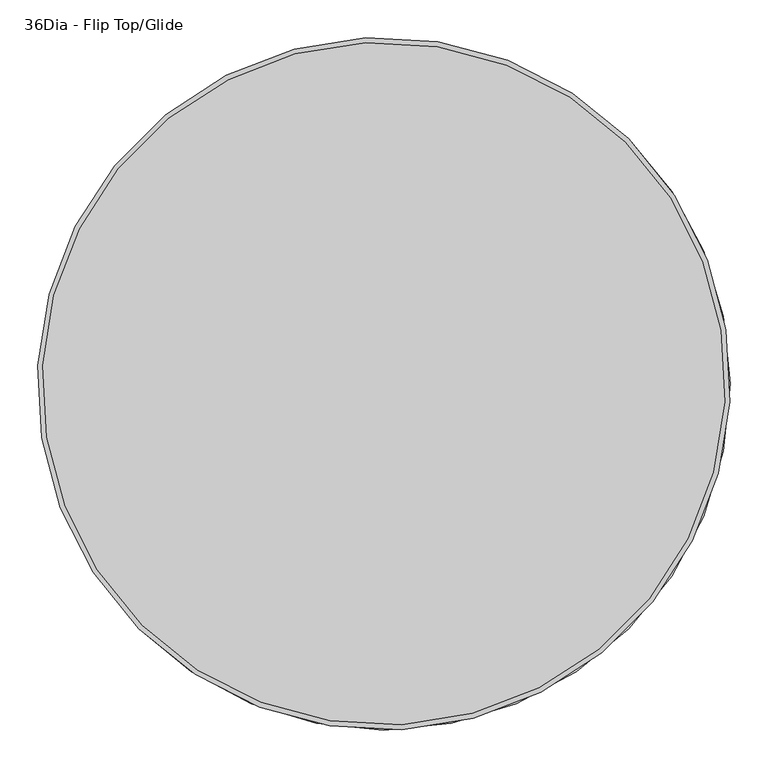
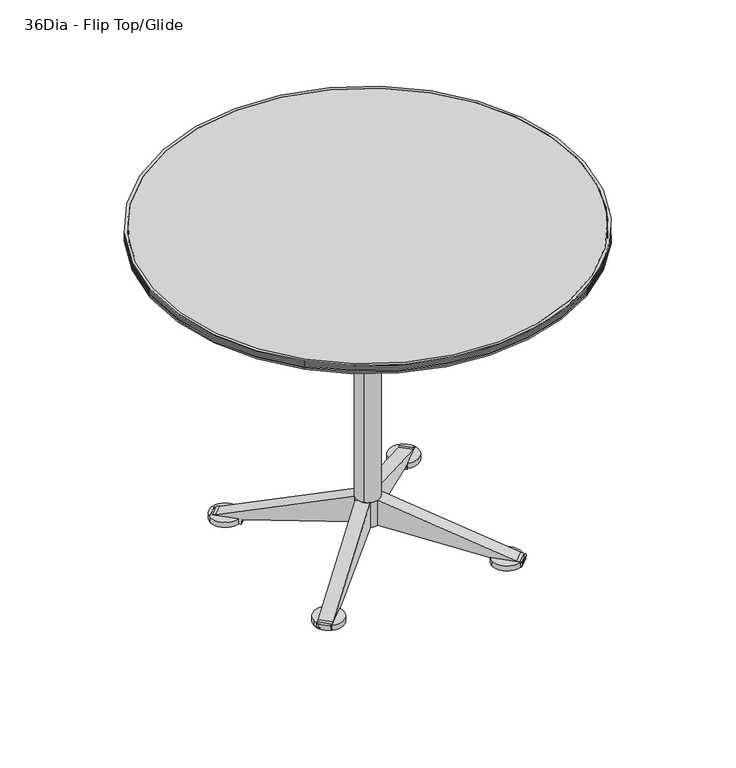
"""IFC4 building model written with IfcOpenShell, lengths in millimetres: furniture geometry, Coalesse_AM_Table_Conference_Ballet_Table_Round : 36Dia - Flip Top/Glide."""

from ifc_helpers import new_model, si_unit, point, frame, frame_2d, origin, origin_with_axes, origin_2d, place, context, project, spatial, polyline, circle_curve, trimmed, segment, composite_curve, outline, extrude, source, transform, mapped, element, save
from ifc_brep_helpers import plane_surface, cylinder_surface, revolved_surface, advanced_brep


def furniture_36dia_flip_top_glide_c7ab700b(model_context):
    return source(origin(), model_context, "Body", "SolidModel", [
        extrude(outline(composite_curve([segment(trimmed(circle_curve(frame_2d((-194.715793, 197.3207687)), 31.75), [point((-226.465793, 197.3207687))], [point((-162.965793, 197.3207687))], False, "CARTESIAN"), True, "CONTINUOUS"), segment(trimmed(circle_curve(frame_2d((-194.715793, 197.3207687)), 31.75), [point((-162.965793, 197.3207687))], [point((-226.465793, 197.3207687))], False, "CARTESIAN"), True, "CONTINUOUS")], self_intersect=False)), frame((0.0, 0.0, 4.2904479), z_axis=(0.0, 0.0, 1.0), x_axis=(1.0, 0.0, 0.0)), (0.0, 0.0, 1.0), 11.3833531),
        extrude(outline(composite_curve([segment(trimmed(circle_curve(frame_2d((191.7194605, 196.5270187)), 31.75), [point((159.9694605, 196.5270187))], [point((223.4694605, 196.5270187))], False, "CARTESIAN"), True, "CONTINUOUS"), segment(trimmed(circle_curve(frame_2d((191.7194605, 196.5270187)), 31.75), [point((223.4694605, 196.5270187))], [point((159.9694605, 196.5270187))], False, "CARTESIAN"), True, "CONTINUOUS")], self_intersect=False)), frame((0.0, 0.0, 4.2904479), z_axis=(0.0, 0.0, 1.0), x_axis=(1.0, 0.0, 0.0)), (0.0, 0.0, 1.0), 11.3833531),
        extrude(outline(composite_curve([segment(trimmed(circle_curve(frame_2d((-194.715793, -191.2787692)), 31.75), [point((-226.465793, -191.2787692))], [point((-162.965793, -191.2787692))], False, "CARTESIAN"), True, "CONTINUOUS"), segment(trimmed(circle_curve(frame_2d((-194.715793, -191.2787692)), 31.75), [point((-162.965793, -191.2787692))], [point((-226.465793, -191.2787692))], False, "CARTESIAN"), True, "CONTINUOUS")], self_intersect=False)), frame((0.0, 0.0, 4.2904479), z_axis=(0.0, 0.0, 1.0), x_axis=(1.0, 0.0, 0.0)), (0.0, 0.0, 1.0), 11.3833531),
        extrude(outline(composite_curve([segment(trimmed(circle_curve(frame_2d((191.7194605, -190.4850192)), 31.75), [point((159.9694605, -190.4850192))], [point((223.4694605, -190.4850192))], False, "CARTESIAN"), True, "CONTINUOUS"), segment(trimmed(circle_curve(frame_2d((191.7194605, -190.4850192)), 31.75), [point((223.4694605, -190.4850192))], [point((159.9694605, -190.4850192))], False, "CARTESIAN"), True, "CONTINUOUS")], self_intersect=False)), frame((0.0, 0.0, 4.2904479), z_axis=(0.0, 0.0, 1.0), x_axis=(1.0, 0.0, 0.0)), (0.0, 0.0, 1.0), 11.3833531),
        extrude(outline(composite_curve([segment(polyline([(-57.749273, 0.0), (0.0, 0.0), (-90.9931074, -269.8641919), (-92.3030079, -279.1846177)]), True, "CONTINUOUS"), segment(trimmed(circle_curve(frame_2d((-93.9206951, -278.9572666)), 1.6335852), [point((-92.3030079, -279.1846177))], [point((-93.8206014, -280.5877823))], False, "CARTESIAN"), True, "CONTINUOUS"), segment(trimmed(circle_curve(frame_2d((-95.8523928, -247.4901147)), 33.1599725), [point((-93.8206014, -280.5877823))], [point((-101.682402, -280.1335639))], False, "CARTESIAN"), True, "CONTINUOUS"), segment(trimmed(circle_curve(frame_2d((-101.2796868, -277.8786768)), 2.2905666), [point((-101.682402, -280.1335639))], [point((-103.5674671, -277.7657306))], False, "CARTESIAN"), True, "CONTINUOUS"), segment(polyline([(-103.5674671, -277.7657306), (-103.5674671, -222.4322812)]), True, "CONTINUOUS"), segment(trimmed(circle_curve(frame_2d((-100.6154331, -221.9840334)), 2.9858719), [point((-103.5674671, -222.4322812))], [point((-100.2998684, -219.0148838))], False, "CARTESIAN"), True, "CONTINUOUS"), segment(trimmed(circle_curve(frame_2d((-98.3053249, -200.2482144)), 18.872363), [point((-100.2998684, -219.0148838))], [point((-94.5016021, -218.7332835))], True, "CARTESIAN"), True, "CONTINUOUS"), segment(trimmed(circle_curve(frame_2d((-95.1495986, -215.5841949)), 3.2150673), [point((-94.5016021, -218.7332835))], [point((-91.9741141, -216.0871422))], True, "CARTESIAN"), True, "CONTINUOUS"), segment(polyline([(-91.9741141, -216.0871422), (-57.749273, 0.0)]), True, "CONTINUOUS")], self_intersect=False)), frame((-23.5273141, 7.7834997, 107.857915), z_axis=(0.7071067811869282, 0.707106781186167, 0.0), x_axis=(0.0, 0.0, 1.0)), (0.0, 0.0, 1.0), 29.2174476),
        extrude(outline(composite_curve([segment(polyline([(-57.749273, 44.2801775), (-91.9741141, 260.3673198)]), True, "CONTINUOUS"), segment(trimmed(circle_curve(frame_2d((-95.1495986, 259.8643724)), 3.2150673), [point((-91.9741141, 260.3673198))], [point((-94.5016021, 263.013461))], True, "CARTESIAN"), True, "CONTINUOUS"), segment(trimmed(circle_curve(frame_2d((-98.3053249, 244.5283919)), 18.872363), [point((-94.5016021, 263.013461))], [point((-100.2998684, 263.2950613))], True, "CARTESIAN"), True, "CONTINUOUS"), segment(trimmed(circle_curve(frame_2d((-100.6154331, 266.2642109)), 2.9858719), [point((-100.2998684, 263.2950613))], [point((-103.5674671, 266.7124587))], False, "CARTESIAN"), True, "CONTINUOUS"), segment(polyline([(-103.5674671, 266.7124587), (-103.5674671, 322.0459081)]), True, "CONTINUOUS"), segment(trimmed(circle_curve(frame_2d((-101.2796868, 322.1588543)), 2.2905666), [point((-103.5674671, 322.0459081))], [point((-101.682402, 324.4137415))], False, "CARTESIAN"), True, "CONTINUOUS"), segment(trimmed(circle_curve(frame_2d((-95.8523928, 291.7702923)), 33.1599725), [point((-101.682402, 324.4137415))], [point((-93.8206014, 324.8679598))], False, "CARTESIAN"), True, "CONTINUOUS"), segment(trimmed(circle_curve(frame_2d((-93.9206951, 323.2374442)), 1.6335852), [point((-93.8206014, 324.8679598))], [point((-92.3030079, 323.4647953))], False, "CARTESIAN"), True, "CONTINUOUS"), segment(polyline([(-92.3030079, 323.4647953), (-90.9931074, 314.1443694), (0.0, 44.2801775), (-57.749273, 44.2801775)]), True, "CONTINUOUS")], self_intersect=False)), frame((-23.5273141, 7.7834997, 107.857915), z_axis=(0.7071067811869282, 0.707106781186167, 0.0), x_axis=(0.0, 0.0, 1.0)), (0.0, 0.0, 1.0), 29.2174476),
        extrude(outline(composite_curve([segment(polyline([(-57.749273, 0.0), (0.0, 0.0), (-90.9931074, -269.8641919), (-92.3030079, -279.1846177)]), True, "CONTINUOUS"), segment(trimmed(circle_curve(frame_2d((-93.9206951, -278.9572666)), 1.6335852), [point((-92.3030079, -279.1846177))], [point((-93.8206014, -280.5877823))], False, "CARTESIAN"), True, "CONTINUOUS"), segment(trimmed(circle_curve(frame_2d((-95.8523928, -247.4901147)), 33.1599725), [point((-93.8206014, -280.5877823))], [point((-101.682402, -280.1335639))], False, "CARTESIAN"), True, "CONTINUOUS"), segment(trimmed(circle_curve(frame_2d((-101.2796868, -277.8786768)), 2.2905666), [point((-101.682402, -280.1335639))], [point((-103.5674671, -277.7657306))], False, "CARTESIAN"), True, "CONTINUOUS"), segment(polyline([(-103.5674671, -277.7657306), (-103.5674671, -222.4322812)]), True, "CONTINUOUS"), segment(trimmed(circle_curve(frame_2d((-100.6154331, -221.9840334)), 2.9858719), [point((-103.5674671, -222.4322812))], [point((-100.2998684, -219.0148838))], False, "CARTESIAN"), True, "CONTINUOUS"), segment(trimmed(circle_curve(frame_2d((-98.3053249, -200.2482144)), 18.872363), [point((-100.2998684, -219.0148838))], [point((-94.5016021, -218.7332835))], True, "CARTESIAN"), True, "CONTINUOUS"), segment(trimmed(circle_curve(frame_2d((-95.1495986, -215.5841949)), 3.2150673), [point((-94.5016021, -218.7332835))], [point((-91.9741141, -216.0871422))], True, "CARTESIAN"), True, "CONTINUOUS"), segment(polyline([(-91.9741141, -216.0871422), (-57.749273, 0.0)]), True, "CONTINUOUS")], self_intersect=False)), frame((-7.7834997, -23.5273141, 107.857915), z_axis=(-0.7071067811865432, 0.7071067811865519, 0.0), x_axis=(0.0, 0.0, 1.0)), (0.0, 0.0, 1.0), 29.2174476),
        extrude(outline(composite_curve([segment(polyline([(-57.749273, 44.2801775), (-91.9741141, 260.3673198)]), True, "CONTINUOUS"), segment(trimmed(circle_curve(frame_2d((-95.1495986, 259.8643724)), 3.2150673), [point((-91.9741141, 260.3673198))], [point((-94.5016021, 263.013461))], True, "CARTESIAN"), True, "CONTINUOUS"), segment(trimmed(circle_curve(frame_2d((-98.3053249, 244.5283919)), 18.872363), [point((-94.5016021, 263.013461))], [point((-100.2998684, 263.2950613))], True, "CARTESIAN"), True, "CONTINUOUS"), segment(trimmed(circle_curve(frame_2d((-100.6154331, 266.2642109)), 2.9858719), [point((-100.2998684, 263.2950613))], [point((-103.5674671, 266.7124587))], False, "CARTESIAN"), True, "CONTINUOUS"), segment(polyline([(-103.5674671, 266.7124587), (-103.5674671, 322.0459081)]), True, "CONTINUOUS"), segment(trimmed(circle_curve(frame_2d((-101.2796868, 322.1588543)), 2.2905666), [point((-103.5674671, 322.0459081))], [point((-101.682402, 324.4137415))], False, "CARTESIAN"), True, "CONTINUOUS"), segment(trimmed(circle_curve(frame_2d((-95.8523928, 291.7702923)), 33.1599725), [point((-101.682402, 324.4137415))], [point((-93.8206014, 324.8679598))], False, "CARTESIAN"), True, "CONTINUOUS"), segment(trimmed(circle_curve(frame_2d((-93.9206951, 323.2374442)), 1.6335852), [point((-93.8206014, 324.8679598))], [point((-92.3030079, 323.4647953))], False, "CARTESIAN"), True, "CONTINUOUS"), segment(polyline([(-92.3030079, 323.4647953), (-90.9931074, 314.1443694), (0.0, 44.2801775), (-57.749273, 44.2801775)]), True, "CONTINUOUS")], self_intersect=False)), frame((-7.7834997, -23.5273141, 107.857915), z_axis=(-0.7071067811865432, 0.7071067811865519, 0.0), x_axis=(0.0, 0.0, 1.0)), (0.0, 0.0, 1.0), 29.2174476),
        extrude(outline(composite_curve([segment(polyline([(-57.749273, 0.0), (0.0, 0.0), (-90.9931074, -269.8641919), (-92.3030079, -279.1846177)]), True, "CONTINUOUS"), segment(trimmed(circle_curve(frame_2d((-93.9206951, -278.9572666)), 1.6335852), [point((-92.3030079, -279.1846177))], [point((-93.8206014, -280.5877823))], False, "CARTESIAN"), True, "CONTINUOUS"), segment(trimmed(circle_curve(frame_2d((-95.8523928, -247.4901147)), 33.1599725), [point((-93.8206014, -280.5877823))], [point((-101.682402, -280.1335639))], False, "CARTESIAN"), True, "CONTINUOUS"), segment(trimmed(circle_curve(frame_2d((-101.2796868, -277.8786768)), 2.2905666), [point((-101.682402, -280.1335639))], [point((-103.5674671, -277.7657306))], False, "CARTESIAN"), True, "CONTINUOUS"), segment(polyline([(-103.5674671, -277.7657306), (-103.5674671, -222.4322812)]), True, "CONTINUOUS"), segment(trimmed(circle_curve(frame_2d((-100.6154331, -221.9840334)), 2.9858719), [point((-103.5674671, -222.4322812))], [point((-100.2998684, -219.0148838))], False, "CARTESIAN"), True, "CONTINUOUS"), segment(trimmed(circle_curve(frame_2d((-98.3053249, -200.2482144)), 18.872363), [point((-100.2998684, -219.0148838))], [point((-94.5016021, -218.7332835))], True, "CARTESIAN"), True, "CONTINUOUS"), segment(trimmed(circle_curve(frame_2d((-95.1495986, -215.5841949)), 3.2150673), [point((-94.5016021, -218.7332835))], [point((-91.9741141, -216.0871422))], True, "CARTESIAN"), True, "CONTINUOUS"), segment(polyline([(-91.9741141, -216.0871422), (-57.749273, 0.0)]), True, "CONTINUOUS")], self_intersect=False)), frame((-23.5273141, 7.7834997, 107.857915), z_axis=(0.7071067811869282, 0.707106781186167, 0.0), x_axis=(0.0, 0.0, 1.0)), (0.0, 0.0, 1.0), 29.2174476),
        extrude(outline(composite_curve([segment(polyline([(-57.749273, 44.2801775), (-91.9741141, 260.3673198)]), True, "CONTINUOUS"), segment(trimmed(circle_curve(frame_2d((-95.1495986, 259.8643724)), 3.2150673), [point((-91.9741141, 260.3673198))], [point((-94.5016021, 263.013461))], True, "CARTESIAN"), True, "CONTINUOUS"), segment(trimmed(circle_curve(frame_2d((-98.3053249, 244.5283919)), 18.872363), [point((-94.5016021, 263.013461))], [point((-100.2998684, 263.2950613))], True, "CARTESIAN"), True, "CONTINUOUS"), segment(trimmed(circle_curve(frame_2d((-100.6154331, 266.2642109)), 2.9858719), [point((-100.2998684, 263.2950613))], [point((-103.5674671, 266.7124587))], False, "CARTESIAN"), True, "CONTINUOUS"), segment(polyline([(-103.5674671, 266.7124587), (-103.5674671, 322.0459081)]), True, "CONTINUOUS"), segment(trimmed(circle_curve(frame_2d((-101.2796868, 322.1588543)), 2.2905666), [point((-103.5674671, 322.0459081))], [point((-101.682402, 324.4137415))], False, "CARTESIAN"), True, "CONTINUOUS"), segment(trimmed(circle_curve(frame_2d((-95.8523928, 291.7702923)), 33.1599725), [point((-101.682402, 324.4137415))], [point((-93.8206014, 324.8679598))], False, "CARTESIAN"), True, "CONTINUOUS"), segment(trimmed(circle_curve(frame_2d((-93.9206951, 323.2374442)), 1.6335852), [point((-93.8206014, 324.8679598))], [point((-92.3030079, 323.4647953))], False, "CARTESIAN"), True, "CONTINUOUS"), segment(polyline([(-92.3030079, 323.4647953), (-90.9931074, 314.1443694), (0.0, 44.2801775), (-57.749273, 44.2801775)]), True, "CONTINUOUS")], self_intersect=False)), frame((-23.5273141, 7.7834997, 107.857915), z_axis=(0.7071067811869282, 0.707106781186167, 0.0), x_axis=(0.0, 0.0, 1.0)), (0.0, 0.0, 1.0), 29.2174476),
        extrude(outline(composite_curve([segment(polyline([(-57.749273, 0.0), (0.0, 0.0), (-90.9931074, -269.8641919), (-92.3030079, -279.1846177)]), True, "CONTINUOUS"), segment(trimmed(circle_curve(frame_2d((-93.9206951, -278.9572666)), 1.6335852), [point((-92.3030079, -279.1846177))], [point((-93.8206014, -280.5877823))], False, "CARTESIAN"), True, "CONTINUOUS"), segment(trimmed(circle_curve(frame_2d((-95.8523928, -247.4901147)), 33.1599725), [point((-93.8206014, -280.5877823))], [point((-101.682402, -280.1335639))], False, "CARTESIAN"), True, "CONTINUOUS"), segment(trimmed(circle_curve(frame_2d((-101.2796868, -277.8786768)), 2.2905666), [point((-101.682402, -280.1335639))], [point((-103.5674671, -277.7657306))], False, "CARTESIAN"), True, "CONTINUOUS"), segment(polyline([(-103.5674671, -277.7657306), (-103.5674671, -222.4322812)]), True, "CONTINUOUS"), segment(trimmed(circle_curve(frame_2d((-100.6154331, -221.9840334)), 2.9858719), [point((-103.5674671, -222.4322812))], [point((-100.2998684, -219.0148838))], False, "CARTESIAN"), True, "CONTINUOUS"), segment(trimmed(circle_curve(frame_2d((-98.3053249, -200.2482144)), 18.872363), [point((-100.2998684, -219.0148838))], [point((-94.5016021, -218.7332835))], True, "CARTESIAN"), True, "CONTINUOUS"), segment(trimmed(circle_curve(frame_2d((-95.1495986, -215.5841949)), 3.2150673), [point((-94.5016021, -218.7332835))], [point((-91.9741141, -216.0871422))], True, "CARTESIAN"), True, "CONTINUOUS"), segment(polyline([(-91.9741141, -216.0871422), (-57.749273, 0.0)]), True, "CONTINUOUS")], self_intersect=False)), frame((-7.7834997, -23.5273141, 107.857915), z_axis=(-0.7071067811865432, 0.7071067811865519, 0.0), x_axis=(0.0, 0.0, 1.0)), (0.0, 0.0, 1.0), 29.2174476),
        extrude(outline(composite_curve([segment(polyline([(-57.749273, 44.2801775), (-91.9741141, 260.3673198)]), True, "CONTINUOUS"), segment(trimmed(circle_curve(frame_2d((-95.1495986, 259.8643724)), 3.2150673), [point((-91.9741141, 260.3673198))], [point((-94.5016021, 263.013461))], True, "CARTESIAN"), True, "CONTINUOUS"), segment(trimmed(circle_curve(frame_2d((-98.3053249, 244.5283919)), 18.872363), [point((-94.5016021, 263.013461))], [point((-100.2998684, 263.2950613))], True, "CARTESIAN"), True, "CONTINUOUS"), segment(trimmed(circle_curve(frame_2d((-100.6154331, 266.2642109)), 2.9858719), [point((-100.2998684, 263.2950613))], [point((-103.5674671, 266.7124587))], False, "CARTESIAN"), True, "CONTINUOUS"), segment(polyline([(-103.5674671, 266.7124587), (-103.5674671, 322.0459081)]), True, "CONTINUOUS"), segment(trimmed(circle_curve(frame_2d((-101.2796868, 322.1588543)), 2.2905666), [point((-103.5674671, 322.0459081))], [point((-101.682402, 324.4137415))], False, "CARTESIAN"), True, "CONTINUOUS"), segment(trimmed(circle_curve(frame_2d((-95.8523928, 291.7702923)), 33.1599725), [point((-101.682402, 324.4137415))], [point((-93.8206014, 324.8679598))], False, "CARTESIAN"), True, "CONTINUOUS"), segment(trimmed(circle_curve(frame_2d((-93.9206951, 323.2374442)), 1.6335852), [point((-93.8206014, 324.8679598))], [point((-92.3030079, 323.4647953))], False, "CARTESIAN"), True, "CONTINUOUS"), segment(polyline([(-92.3030079, 323.4647953), (-90.9931074, 314.1443694), (0.0, 44.2801775), (-57.749273, 44.2801775)]), True, "CONTINUOUS")], self_intersect=False)), frame((-7.7834997, -23.5273141, 107.857915), z_axis=(-0.7071067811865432, 0.7071067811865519, 0.0), x_axis=(0.0, 0.0, 1.0)), (0.0, 0.0, 1.0), 29.2174476),
        extrude(outline(composite_curve([segment(trimmed(circle_curve(frame_2d((1.04e-05, -1.04e-05)), 25.3999999), [point((-17.9605018, -17.9605225))], [point((17.9605225, 17.9605018))], False, "CARTESIAN"), True, "CONTINUOUS"), segment(trimmed(circle_curve(frame_2d((1.04e-05, -1.04e-05)), 25.3999999), [point((17.9605225, 17.9605018))], [point((-17.9605018, -17.9605225))], False, "CARTESIAN"), True, "CONTINUOUS")], self_intersect=False)), frame((0.0, 0.0, 607.6784119), z_axis=(0.0, 0.0, 1.0), x_axis=(1.0, 0.0, 0.0)), (0.0, 0.0, 1.0), 50.3081696),
        extrude(outline(polyline([(158.4621346, 17.0356733), (169.8930132, 8.1048922), (169.8930132, 0.8331186), (159.98106, -9.0788345), (38.5409959, -9.0788345), (28.462086, 1.0000754), (28.462086, 7.6856478), (37.8121114, 17.0356733), (158.4621346, 17.0356733)])), frame((0.0, 0.0, 687.2912849), z_axis=(0.0, 0.0, 1.0), x_axis=(1.0, 0.0, 0.0)), (0.0, 0.0, 1.0), 6.5168503),
        extrude(outline(composite_curve([segment(trimmed(circle_curve(frame_2d((669.1002966, -84.2761543)), 7.8975043), [point((669.1002966, -92.1736586))], [point((669.1002966, -76.3786501))], False, "CARTESIAN"), True, "CONTINUOUS"), segment(trimmed(circle_curve(frame_2d((669.1002966, -84.2761543)), 7.8975043), [point((669.1002966, -76.3786501))], [point((669.1002966, -92.1736586))], False, "CARTESIAN"), True, "CONTINUOUS")], self_intersect=False)), frame((0.0, -102.0227757, 0.0), z_axis=(0.0, 1.0, 0.0), x_axis=(0.0, 0.0, 1.0)), (0.0, 0.0, 1.0), 207.3263413),
        extrude(outline(polyline([(77.1619615, -102.0227757), (72.7168839, -102.0227757), (72.7168839, 105.3035655), (77.1619615, 105.3035655), (77.1619615, -102.0227757)])), frame((0.0, 0.0, 657.9865814), z_axis=(0.0, 0.0, 1.0), x_axis=(1.0, 0.0, 0.0)), (0.0, 0.0, 1.0), 25.6753708),
        extrude(outline(polyline([(105.3035655, 652.7037643), (101.8153095, 652.7037643), (101.8153095, 700.0114872), (-94.3997971, 700.0114872), (-94.3997971, 652.7037643), (-97.8879563, 652.7037643), (-97.8879563, 704.85), (105.3035655, 704.85), (105.3035655, 652.7037643)])), frame((-111.7977681, 0.0, 0.0), z_axis=(1.0, 0.0, 0.0), x_axis=(0.0, 1.0, 0.0)), (0.0, 0.0, 1.0), 220.3746008),
        extrude(outline(polyline([(-91.8596905, 688.7419716), (99.2752998, 688.7419716), (99.2752998, 652.7037643), (94.1954742, 652.7037643), (94.1954742, 683.6619522), (-86.7795016, 683.6619522), (-86.7795016, 652.7037643), (-91.8596905, 652.7037643), (-91.8596905, 688.7419716)])), frame((-111.7977681, 0.0, 0.0), z_axis=(1.0, 0.0, 0.0), x_axis=(0.0, 1.0, 0.0)), (0.0, 0.0, 1.0), 220.3746008),
        extrude(outline(composite_curve([segment(trimmed(circle_curve(frame_2d((1.04e-05, -1.04e-05)), 25.3999999), [point((-17.9605018, -17.9605225))], [point((17.9605225, 17.9605018))], False, "CARTESIAN"), True, "CONTINUOUS"), segment(trimmed(circle_curve(frame_2d((1.04e-05, -1.04e-05)), 25.3999999), [point((17.9605225, 17.9605018))], [point((-17.9605018, -17.9605225))], False, "CARTESIAN"), True, "CONTINUOUS")], self_intersect=False)), frame((0.0, 0.0, 107.857915), z_axis=(0.0, 0.0, 1.0), x_axis=(1.0, 0.0, 0.0)), (0.0, 0.0, 1.0), 499.8204968),
        advanced_brep(
        [(-318.7990923, -318.7990923, 723.9), (318.7990923, 318.7990923, 723.9), (318.7990923, 318.7990923, 704.85), (-318.7990923, -318.7990923, 704.85), (-323.4194013, -323.4194013, 720.7467693), (323.4194013, 323.4194013, 720.7467693), (323.4194013, 323.4194013, 723.9), (-323.4194013, -323.4194013, 723.9), (-321.1902454, -321.1902454, 719.140489), (321.1902454, 321.1902454, 719.140489), (-323.3975457, -323.3975457, 717.5499574), (323.3975457, 323.3975457, 717.5499574), (-321.1872768, -321.1872768, 715.9572867), (321.1872768, 321.1872768, 715.9572867), (-323.4153307, -323.4153307, 714.3518005), (323.4153307, 323.4153307, 714.3518005), (-321.1853731, -321.1853731, 712.8136693), (321.1853731, 321.1853731, 712.8136693), (-323.4314025, -323.4314025, 711.2246637), (323.4314025, 323.4314025, 711.2246637), (-321.1899902, -321.1899902, 709.6095518), (321.1899902, 321.1899902, 709.6095518), (-323.4314025, -323.4314025, 708.0238127), (323.4314025, 323.4314025, 708.0238127), (-323.4314025, -323.4314025, 704.85), (323.4314025, 323.4314025, 704.85)],
        [
            (0, 1, circle_curve(frame((0.0, 0.0, 723.9), z_axis=(0.0, 0.0, 1.0), x_axis=(0.707106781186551, 0.707106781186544, 0.0)), 450.85)),
            (1, 2),
            (2, 3, circle_curve(frame((0.0, 0.0, 704.85), z_axis=(0.0, 0.0, -1.0), x_axis=(0.707106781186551, 0.707106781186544, 0.0)), 450.85)),
            (3, 0),
            (4, 5, circle_curve(frame((0.0, 0.0, 720.7467693), z_axis=(0.0, 0.0, 1.0), x_axis=(0.707106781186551, 0.707106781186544, 0.0)), 457.3841036)),
            (5, 6),
            (6, 7, circle_curve(frame((0.0, 0.0, 723.9), z_axis=(0.0, 0.0, -1.0), x_axis=(0.707106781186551, 0.707106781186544, 0.0)), 457.3841036)),
            (7, 4),
            (8, 9, circle_curve(frame((0.0, 0.0, 719.140489), z_axis=(0.0, 0.0, 1.0), x_axis=(0.707106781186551, 0.707106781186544, 0.0)), 454.2316012)),
            (9, 5),
            (4, 8),
            (10, 11, circle_curve(frame((0.0, 0.0, 717.5499574), z_axis=(0.0, 0.0, 1.0), x_axis=(0.707106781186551, 0.707106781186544, 0.0)), 457.3531952)),
            (11, 9),
            (8, 10),
            (12, 13, circle_curve(frame((0.0, 0.0, 715.9572867), z_axis=(0.0, 0.0, 1.0), x_axis=(0.707106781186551, 0.707106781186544, 0.0)), 454.2274029)),
            (13, 11),
            (10, 12),
            (14, 15, circle_curve(frame((0.0, 0.0, 714.3518005), z_axis=(0.0, 0.0, 1.0), x_axis=(0.707106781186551, 0.707106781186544, 0.0)), 457.378347)),
            (15, 13),
            (12, 14),
            (16, 17, circle_curve(frame((0.0, 0.0, 712.8136693), z_axis=(0.0, 0.0, 1.0), x_axis=(0.707106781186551, 0.707106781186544, 0.0)), 454.2247106)),
            (17, 15),
            (14, 16),
            (18, 19, circle_curve(frame((0.0, 0.0, 711.2246637), z_axis=(0.0, 0.0, 1.0), x_axis=(0.707106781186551, 0.707106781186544, 0.0)), 457.4010759)),
            (19, 17),
            (16, 18),
            (20, 21, circle_curve(frame((0.0, 0.0, 709.6095518), z_axis=(0.0, 0.0, 1.0), x_axis=(0.707106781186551, 0.707106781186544, 0.0)), 454.2312403)),
            (21, 19),
            (18, 20),
            (22, 23, circle_curve(frame((0.0, 0.0, 708.0238127), z_axis=(0.0, 0.0, 1.0), x_axis=(0.707106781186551, 0.707106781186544, 0.0)), 457.4010759)),
            (23, 21),
            (20, 22),
            (24, 25, circle_curve(frame((0.0, 0.0, 704.85), z_axis=(0.0, 0.0, 1.0), x_axis=(0.707106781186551, 0.707106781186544, 0.0)), 457.4010759)),
            (25, 23),
            (22, 24),
            (1, 0, circle_curve(frame((0.0, 0.0, 723.9), z_axis=(0.0, 0.0, 1.0), x_axis=(-0.7071067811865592, -0.7071067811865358, 0.0)), 450.85)),
            (3, 2, circle_curve(frame((0.0, 0.0, 704.85), z_axis=(0.0, 0.0, -1.0), x_axis=(-0.7071067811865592, -0.7071067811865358, 0.0)), 450.85)),
            (6, 7, circle_curve(frame((0.0, 0.0, 723.9), z_axis=(0.0, 0.0, 1.0), x_axis=(-0.7071067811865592, -0.7071067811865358, 0.0)), 457.3841036)),
            (5, 4, circle_curve(frame((0.0, 0.0, 720.7467693), z_axis=(0.0, 0.0, 1.0), x_axis=(-0.7071067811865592, -0.7071067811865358, 0.0)), 457.3841036)),
            (9, 8, circle_curve(frame((0.0, 0.0, 719.140489), z_axis=(0.0, 0.0, 1.0), x_axis=(-0.7071067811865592, -0.7071067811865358, 0.0)), 454.2316012)),
            (11, 10, circle_curve(frame((0.0, 0.0, 717.5499574), z_axis=(0.0, 0.0, 1.0), x_axis=(-0.7071067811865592, -0.7071067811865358, 0.0)), 457.3531952)),
            (13, 12, circle_curve(frame((0.0, 0.0, 715.9572867), z_axis=(0.0, 0.0, 1.0), x_axis=(-0.7071067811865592, -0.7071067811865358, 0.0)), 454.2274029)),
            (15, 14, circle_curve(frame((0.0, 0.0, 714.3518005), z_axis=(0.0, 0.0, 1.0), x_axis=(-0.7071067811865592, -0.7071067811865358, 0.0)), 457.378347)),
            (17, 16, circle_curve(frame((0.0, 0.0, 712.8136693), z_axis=(0.0, 0.0, 1.0), x_axis=(-0.7071067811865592, -0.7071067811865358, 0.0)), 454.2247106)),
            (19, 18, circle_curve(frame((0.0, 0.0, 711.2246637), z_axis=(0.0, 0.0, 1.0), x_axis=(-0.7071067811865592, -0.7071067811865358, 0.0)), 457.4010759)),
            (21, 20, circle_curve(frame((0.0, 0.0, 709.6095518), z_axis=(0.0, 0.0, 1.0), x_axis=(-0.7071067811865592, -0.7071067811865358, 0.0)), 454.2312403)),
            (23, 22, circle_curve(frame((0.0, 0.0, 708.0238127), z_axis=(0.0, 0.0, 1.0), x_axis=(-0.7071067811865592, -0.7071067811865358, 0.0)), 457.4010759)),
            (25, 24, circle_curve(frame((0.0, 0.0, 704.85), z_axis=(0.0, 0.0, 1.0), x_axis=(-0.7071067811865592, -0.7071067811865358, 0.0)), 457.4010759)),
        ],
        [
            revolved_surface(polyline([(318.7990922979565, 318.7990922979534, 704.85), (318.7990922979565, 318.7990922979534, 723.9)]), (0.0, 0.0, 723.9), (0.0, 0.0, -1.0)),
            cylinder_surface(frame((0.0, 0.0, 723.9), z_axis=(0.0, 0.0, -1.0), x_axis=(0.707106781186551, 0.707106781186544, 0.0)), 457.3841036),
            revolved_surface(polyline([(323.4194013, 323.4194013, 720.7467693), (321.1902454, 321.1902454, 719.140489)]), (0.0, 0.0, 723.9), (0.0, 0.0, -1.0)),
            revolved_surface(polyline([(321.1902454, 321.1902454, 719.140489), (323.3975457, 323.3975457, 717.5499574)]), (0.0, 0.0, 723.9), (0.0, 0.0, -1.0)),
            revolved_surface(polyline([(323.3975457, 323.3975457, 717.5499574), (321.1872768, 321.1872768, 715.9572867)]), (0.0, 0.0, 723.9), (0.0, 0.0, -1.0)),
            revolved_surface(polyline([(321.1872768, 321.1872768, 715.9572867), (323.4153307, 323.4153307, 714.3518005)]), (0.0, 0.0, 723.9), (0.0, 0.0, -1.0)),
            revolved_surface(polyline([(323.4153307, 323.4153307, 714.3518005), (321.1853731, 321.1853731, 712.8136693)]), (0.0, 0.0, 723.9), (0.0, 0.0, -1.0)),
            revolved_surface(polyline([(321.1853731, 321.1853731, 712.8136693), (323.4314025, 323.4314025, 711.2246637)]), (0.0, 0.0, 723.9), (0.0, 0.0, -1.0)),
            revolved_surface(polyline([(323.4314025, 323.4314025, 711.2246637), (321.1899902, 321.1899902, 709.6095518)]), (0.0, 0.0, 723.9), (0.0, 0.0, -1.0)),
            revolved_surface(polyline([(321.1899902, 321.1899902, 709.6095518), (323.4314025, 323.4314025, 708.0238127)]), (0.0, 0.0, 723.9), (0.0, 0.0, -1.0)),
            cylinder_surface(frame((0.0, 0.0, 723.9), z_axis=(0.0, 0.0, -1.0), x_axis=(0.707106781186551, 0.707106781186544, 0.0)), 457.4010759),
            revolved_surface(polyline([(-318.79909229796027, -318.7990922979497, 704.85), (-318.79909229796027, -318.7990922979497, 723.9)]), (0.0, 0.0, 723.9), (0.0, 0.0, -1.0)),
            plane_surface(frame((0.0, 0.0, 723.9), z_axis=(0.0, 0.0, 1.0), x_axis=(-0.7071067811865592, -0.7071067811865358, 0.0))),
            cylinder_surface(frame((0.0, 0.0, 723.9), z_axis=(0.0, 0.0, -1.0), x_axis=(-0.7071067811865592, -0.7071067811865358, 0.0)), 457.3841036),
            revolved_surface(polyline([(-323.4194013, -323.4194013, 720.7467693), (-321.1902454, -321.1902454, 719.140489)]), (0.0, 0.0, 723.9), (0.0, 0.0, -1.0)),
            revolved_surface(polyline([(-321.1902454, -321.1902454, 719.140489), (-323.3975457, -323.3975457, 717.5499574)]), (0.0, 0.0, 723.9), (0.0, 0.0, -1.0)),
            revolved_surface(polyline([(-323.3975457, -323.3975457, 717.5499574), (-321.1872768, -321.1872768, 715.9572867)]), (0.0, 0.0, 723.9), (0.0, 0.0, -1.0)),
            revolved_surface(polyline([(-321.1872768, -321.1872768, 715.9572867), (-323.4153307, -323.4153307, 714.3518005)]), (0.0, 0.0, 723.9), (0.0, 0.0, -1.0)),
            revolved_surface(polyline([(-323.4153307, -323.4153307, 714.3518005), (-321.1853731, -321.1853731, 712.8136693)]), (0.0, 0.0, 723.9), (0.0, 0.0, -1.0)),
            revolved_surface(polyline([(-321.1853731, -321.1853731, 712.8136693), (-323.4314025, -323.4314025, 711.2246637)]), (0.0, 0.0, 723.9), (0.0, 0.0, -1.0)),
            revolved_surface(polyline([(-323.4314025, -323.4314025, 711.2246637), (-321.1899902, -321.1899902, 709.6095518)]), (0.0, 0.0, 723.9), (0.0, 0.0, -1.0)),
            revolved_surface(polyline([(-321.1899902, -321.1899902, 709.6095518), (-323.4314025, -323.4314025, 708.0238127)]), (0.0, 0.0, 723.9), (0.0, 0.0, -1.0)),
            cylinder_surface(frame((0.0, 0.0, 723.9), z_axis=(0.0, 0.0, -1.0), x_axis=(-0.7071067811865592, -0.7071067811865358, 0.0)), 457.4010759),
            plane_surface(frame((0.0, 0.0, 704.85), z_axis=(0.0, 0.0, -1.0), x_axis=(-0.7071067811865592, -0.7071067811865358, 0.0))),
        ],
        [
            (0, [[1, 2, 3, 4]]),
            (1, [[5, 6, 7, 8]]),
            (2, [[9, 10, -5, 11]]),
            (3, [[12, 13, -9, 14]]),
            (4, [[15, 16, -12, 17]]),
            (5, [[18, 19, -15, 20]]),
            (6, [[21, 22, -18, 23]]),
            (7, [[24, 25, -21, 26]]),
            (8, [[27, 28, -24, 29]]),
            (9, [[30, 31, -27, 32]]),
            (10, [[33, 34, -30, 35]]),
            (11, [[36, -4, 37, -2]]),
            (12, [[38, -7], [-36, -1]]),
            (13, [[39, -8, -38, -6]]),
            (14, [[40, -11, -39, -10]]),
            (15, [[41, -14, -40, -13]]),
            (16, [[42, -17, -41, -16]]),
            (17, [[43, -20, -42, -19]]),
            (18, [[44, -23, -43, -22]]),
            (19, [[45, -26, -44, -25]]),
            (20, [[46, -29, -45, -28]]),
            (21, [[47, -32, -46, -31]]),
            (22, [[48, -35, -47, -34]]),
            (23, [[-48, -33], [-37, -3]]),
        ],
    ),
        extrude(outline(composite_curve([segment(trimmed(circle_curve(frame_2d((192.2336051, -190.6461051)), 25.4), [point((174.2730929, -208.6066174))], [point((210.1941174, -172.6855929))], False, "CARTESIAN"), True, "CONTINUOUS"), segment(trimmed(circle_curve(frame_2d((192.2336051, -190.6461051)), 25.4), [point((210.1941174, -172.6855929))], [point((174.2730929, -208.6066174))], False, "CARTESIAN"), True, "CONTINUOUS")], self_intersect=False)), origin_with_axes(), (0.0, 0.0, 1.0), 4.2904479),
        extrude(outline(composite_curve([segment(trimmed(circle_curve(frame_2d((192.2336051, 196.9961051)), 25.4), [point((174.2730929, 179.0355929))], [point((210.1941174, 214.9566174))], False, "CARTESIAN"), True, "CONTINUOUS"), segment(trimmed(circle_curve(frame_2d((192.2336051, 196.9961051)), 25.4), [point((210.1941174, 214.9566174))], [point((174.2730929, 179.0355929))], False, "CARTESIAN"), True, "CONTINUOUS")], self_intersect=False)), origin_with_axes(), (0.0, 0.0, 1.0), 4.2904479),
        extrude(outline(composite_curve([segment(trimmed(circle_curve(frame_2d((-194.6148551, -191.4398551)), 25.4), [point((-212.5753674, -209.4003674))], [point((-176.6543429, -173.4793429))], False, "CARTESIAN"), True, "CONTINUOUS"), segment(trimmed(circle_curve(frame_2d((-194.6148551, -191.4398551)), 25.4), [point((-176.6543429, -173.4793429))], [point((-212.5753674, -209.4003674))], False, "CARTESIAN"), True, "CONTINUOUS")], self_intersect=False)), origin_with_axes(), (0.0, 0.0, 1.0), 4.2904479),
        extrude(outline(composite_curve([segment(trimmed(circle_curve(frame_2d((-194.2179801, 197.3929801)), 25.4), [point((-212.1784924, 179.4324679))], [point((-176.2574679, 215.3534924))], False, "CARTESIAN"), True, "CONTINUOUS"), segment(trimmed(circle_curve(frame_2d((-194.2179801, 197.3929801)), 25.4), [point((-176.2574679, 215.3534924))], [point((-212.1784924, 179.4324679))], False, "CARTESIAN"), True, "CONTINUOUS")], self_intersect=False)), origin_with_axes(), (0.0, 0.0, 1.0), 4.2904479),
        extrude(outline(composite_curve([segment(trimmed(circle_curve(frame_2d((1.04e-05, -1.04e-05)), 25.3999999), [point((-17.9605018, -17.9605225))], [point((17.9605225, 17.9605018))], False, "CARTESIAN"), True, "CONTINUOUS"), segment(trimmed(circle_curve(frame_2d((1.04e-05, -1.04e-05)), 25.3999999), [point((17.9605225, 17.9605018))], [point((-17.9605018, -17.9605225))], False, "CARTESIAN"), True, "CONTINUOUS")], self_intersect=False)), frame((0.0, 0.0, 50.8000015), z_axis=(0.0, 0.0, 1.0), x_axis=(1.0, 0.0, 0.0)), (0.0, 0.0, 1.0), 556.8784104),
        extrude(outline(composite_curve([segment(trimmed(circle_curve(origin_2d(), 450.85), [point((-318.7990923, -318.7990923))], [point((318.7990923, 318.7990923))], False, "CARTESIAN"), True, "CONTINUOUS"), segment(trimmed(circle_curve(origin_2d(), 450.85), [point((318.7990923, 318.7990923))], [point((-318.7990923, -318.7990923))], False, "CARTESIAN"), True, "CONTINUOUS")], self_intersect=False)), frame((0.0, 0.0, 704.85), z_axis=(0.0, 0.0, 1.0), x_axis=(1.0, 0.0, 0.0)), (0.0, 0.0, 1.0), 19.05),
    ])


if __name__ == "__main__":
    model = new_model("IFC4")
    model_context = context("Model", 3, world=origin())
    ifc_project = project(units=[si_unit("LENGTHUNIT", "METRE", prefix="MILLI")], contexts=[model_context])
    site = spatial("IfcSite", under=ifc_project)
    building = spatial("IfcBuilding", under=site)
    placement = place(None, origin())
    furniture_36dia_flip_top_glide_shape = furniture_36dia_flip_top_glide_c7ab700b(model_context)
    element("IfcFurniture", 1, ObjectType="Coalesse_AM_Table_Conference_Ballet_Table_Round : 36Dia - Flip Top/Glide", at=placement, inside=building, context=model_context, shape_type="MappedRepresentation", body=[
        mapped(furniture_36dia_flip_top_glide_shape, transform((0.0, 0.0, 0.0), x_axis=(1.0, 0.0, 0.0), y_axis=(0.0, 1.0, 0.0), z_axis=(0.0, 0.0, 1.0))),
    ])
    save(model, "model.ifc")
